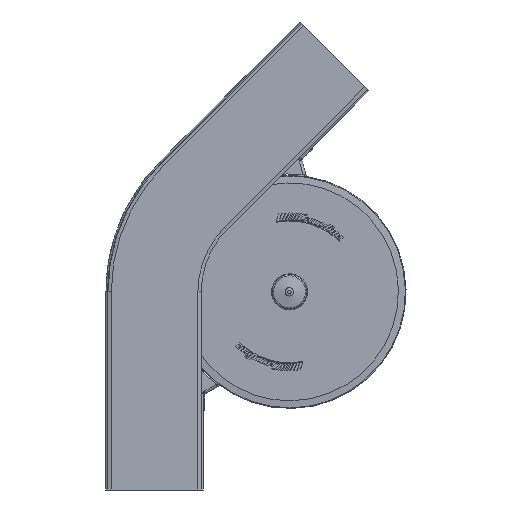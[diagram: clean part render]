
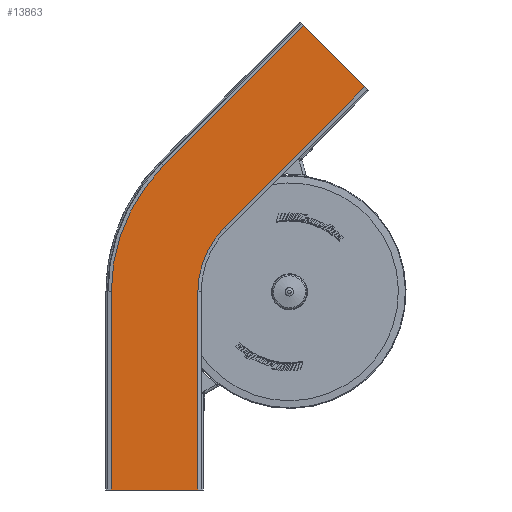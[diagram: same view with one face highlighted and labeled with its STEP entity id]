
A CAD part, front view. The second image highlights one B-rep face of the part: STEP entity #13863.
In plain terms, the highlighted planar face has unit normal (0, -1, 0).
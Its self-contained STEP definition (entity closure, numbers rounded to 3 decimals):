
#834=CIRCLE('',#14896,137.5);
#835=CIRCLE('',#14898,267.5);
#1370=FACE_OUTER_BOUND('',#2198,.T.);
#2198=EDGE_LOOP('',(#9224,#9225,#9226,#9227,#9228,#9229,#9230,#9231));
#3135=LINE('',#19973,#4451);
#3139=LINE('',#19980,#4455);
#3150=LINE('',#20013,#4466);
#3151=LINE('',#20015,#4467);
#3152=LINE('',#20016,#4468);
#3153=LINE('',#20017,#4469);
#4451=VECTOR('',#16148,10.);
#4455=VECTOR('',#16154,10.);
#4466=VECTOR('',#16185,10.);
#4467=VECTOR('',#16186,10.);
#4468=VECTOR('',#16187,10.);
#4469=VECTOR('',#16188,10.);
#5767=VERTEX_POINT('',#19970);
#5768=VERTEX_POINT('',#19972);
#5770=VERTEX_POINT('',#19978);
#5779=VERTEX_POINT('',#20004);
#5780=VERTEX_POINT('',#20006);
#5781=VERTEX_POINT('',#20010);
#5782=VERTEX_POINT('',#20012);
#5783=VERTEX_POINT('',#20014);
#7107=EDGE_CURVE('',#5768,#5767,#3135,.T.);
#7111=EDGE_CURVE('',#5770,#5767,#3139,.T.);
#7124=EDGE_CURVE('',#5780,#5779,#834,.T.);
#7126=EDGE_CURVE('',#5781,#5770,#835,.T.);
#7127=EDGE_CURVE('',#5782,#5781,#3150,.T.);
#7128=EDGE_CURVE('',#5782,#5783,#3151,.T.);
#7129=EDGE_CURVE('',#5783,#5780,#3152,.T.);
#7130=EDGE_CURVE('',#5779,#5768,#3153,.T.);
#9224=ORIENTED_EDGE('',*,*,#7107,.T.);
#9225=ORIENTED_EDGE('',*,*,#7111,.F.);
#9226=ORIENTED_EDGE('',*,*,#7126,.F.);
#9227=ORIENTED_EDGE('',*,*,#7127,.F.);
#9228=ORIENTED_EDGE('',*,*,#7128,.T.);
#9229=ORIENTED_EDGE('',*,*,#7129,.T.);
#9230=ORIENTED_EDGE('',*,*,#7124,.T.);
#9231=ORIENTED_EDGE('',*,*,#7130,.T.);
#13380=PLANE('',#14897);
#13863=ADVANCED_FACE('',(#1370),#13380,.T.);
#14896=AXIS2_PLACEMENT_3D('',#20007,#16178,#16179);
#14897=AXIS2_PLACEMENT_3D('',#20009,#16181,#16182);
#14898=AXIS2_PLACEMENT_3D('',#20011,#16183,#16184);
#16148=DIRECTION('',(-0.707,0.,0.707));
#16154=DIRECTION('',(0.707,0.,0.707));
#16178=DIRECTION('center_axis',(0.,1.,0.));
#16179=DIRECTION('ref_axis',(-1.,0.,0.));
#16181=DIRECTION('center_axis',(0.,-1.,0.));
#16182=DIRECTION('ref_axis',(-0.707,0.,-0.707));
#16183=DIRECTION('center_axis',(0.,1.,0.));
#16184=DIRECTION('ref_axis',(-1.,0.,0.));
#16185=DIRECTION('',(0.,0.,1.));
#16186=DIRECTION('',(1.,0.,0.));
#16187=DIRECTION('',(0.,0.,1.));
#16188=DIRECTION('',(0.707,0.,0.707));
#19970=CARTESIAN_POINT('',(262.714,-72.,697.015));
#19972=CARTESIAN_POINT('',(354.638,-72.,605.091));
#19973=CARTESIAN_POINT('',(330.596,-72.,629.133));
#19978=CARTESIAN_POINT('',(52.35,-72.,486.651));
#19980=CARTESIAN_POINT('',(-270.475,-72.,163.826));
#20004=CARTESIAN_POINT('',(144.273,-72.,394.727));
#20006=CARTESIAN_POINT('',(104.001,-72.,297.5));
#20007=CARTESIAN_POINT('Origin',(241.501,-72.,297.5));
#20009=CARTESIAN_POINT('Origin',(-178.551,-72.,71.902));
#20010=CARTESIAN_POINT('',(-25.999,-72.,297.5));
#20011=CARTESIAN_POINT('Origin',(241.501,-72.,297.5));
#20012=CARTESIAN_POINT('',(-25.999,-72.,0.));
#20013=CARTESIAN_POINT('',(-25.999,-72.,0.));
#20014=CARTESIAN_POINT('',(104.001,-72.,0.));
#20015=CARTESIAN_POINT('',(-25.999,-72.,0.));
#20016=CARTESIAN_POINT('',(104.001,-72.,0.));
#20017=CARTESIAN_POINT('',(-178.551,-72.,71.902));
